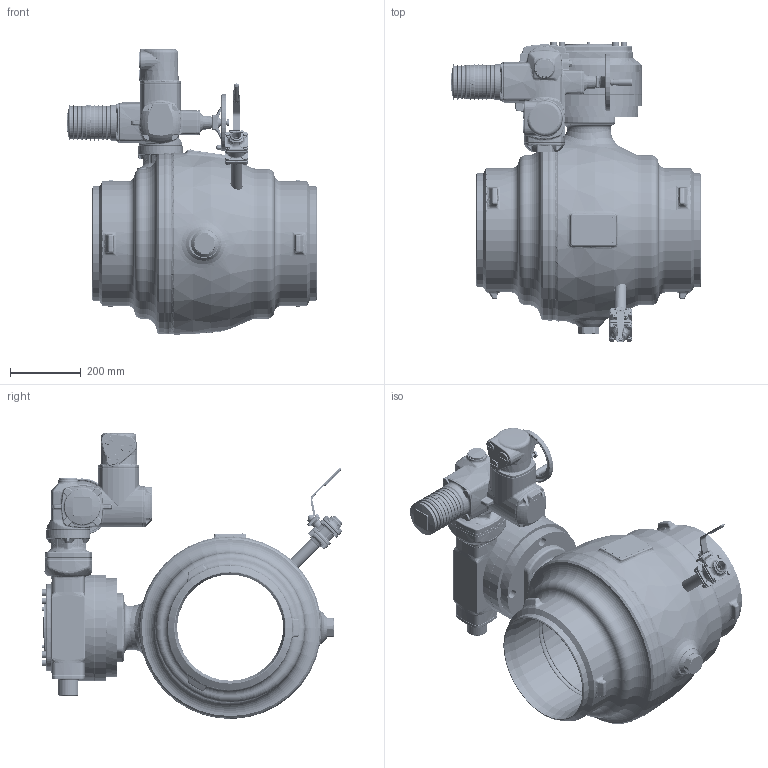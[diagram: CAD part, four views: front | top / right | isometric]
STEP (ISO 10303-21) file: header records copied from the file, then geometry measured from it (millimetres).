
FILE_DESCRIPTION((''),'2;1');
FILE_NAME('ASM0002_ASM','2026-01-28T10:45:23',('schwaba'),('KLINGER'),'CREO PARAMETRIC BY PTC INC, 2023014','CREO PARAMETRIC BY PTC INC, 2023014','');
FILE_SCHEMA(('CONFIG_CONTROL_DESIGN'));
Length unit declared in the file: millimetre
Products named in the file (4): KHSVI_300_FR_WE_ENTL; GS125_F25_F10_DN300; SA07_2-6_F10_STD; ASM0002_ASM
Assembly tree (3 placements, depth 2):
  ASM0002_ASM
    KHSVI_300_FR_WE_ENTL
    GS125_F25_F10_DN300
    SA07_2-6_F10_STD
Bounding box: 706.51 x 850.38 x 808.36 mm (x, y, z)
Volume: 52624825.9 mm3; surface area: 4719432.1 mm2
Topology: 7 solids, 7 shells, 5883 faces, 13936 edges, 8202 vertices
Faces by surface type: plane 1515, cylinder 1359, bspline 1153, torus 967, cone 716, sphere 87, extrusion 63, revolution 23
Entity records: 347364 total; most frequent: CARTESIAN_POINT 220116, ORIENTED_EDGE 27662, DIRECTION 25269, EDGE_CURVE 13831, AXIS2_PLACEMENT_3D 10683, VERTEX_POINT 8201, EDGE_LOOP 6232, CIRCLE 6029
